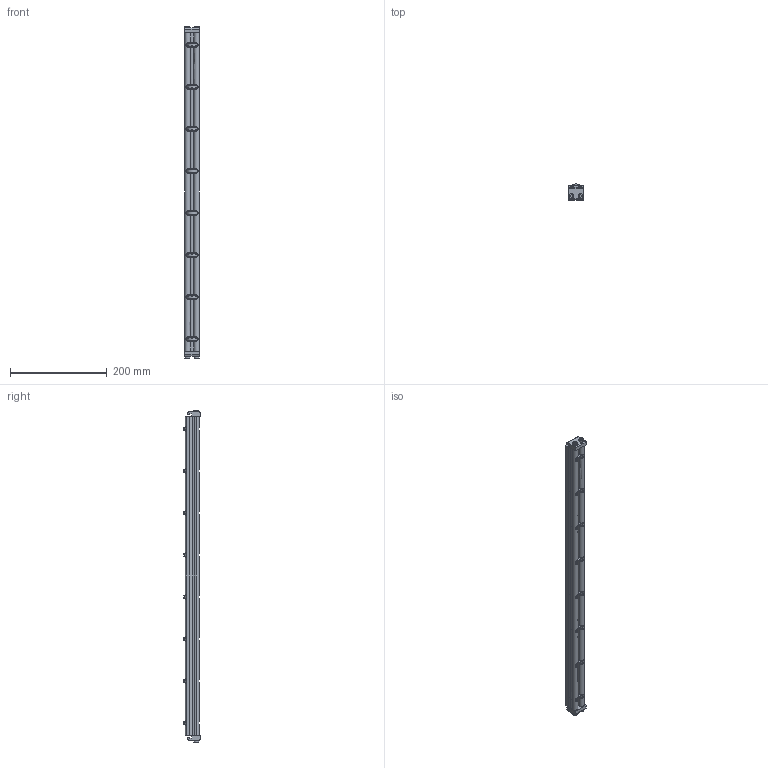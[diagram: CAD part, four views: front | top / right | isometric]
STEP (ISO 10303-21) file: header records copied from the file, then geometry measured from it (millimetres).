
FILE_DESCRIPTION((''),'2;1');
FILE_NAME('324926_ASM','2023-03-14T',('jenni.wallner'),(''),'PRO/ENGINEER BY PARAMETRIC TECHNOLOGY CORPORATION, 2012420','PRO/ENGINEER BY PARAMETRIC TECHNOLOGY CORPORATION, 2012420','');
FILE_SCHEMA(('CONFIG_CONTROL_DESIGN'));
Length unit declared in the file: inch
Products named in the file (7): X920693M; 240826; 240827_CAE; 2436WW_243626; 2410WW_CAE_241026; ASM0001_ASM; 324926_ASM
Assembly tree (17 placements, depth 3):
  324926_ASM
    ASM0001_ASM
      X920693M  x4
      240826  x8
      240827_CAE  x2
      2436WW_243626
      2410WW_CAE_241026
Bounding box: 30.88 x 33.34 x 687.81 mm (x, y, z)
Volume: 327513.9 mm3; surface area: 194574.7 mm2
Topology: 16 solids, 16 shells, 524 faces, 1472 edges, 972 vertices
Faces by surface type: cylinder 238, plane 186, cone 68, torus 32
Entity records: 12791 total; most frequent: CARTESIAN_POINT 3341, ORIENTED_EDGE 2064, DIRECTION 1916, EDGE_CURVE 1032, AXIS2_PLACEMENT_3D 716, VERTEX_POINT 688, VECTOR 484, LINE 484
